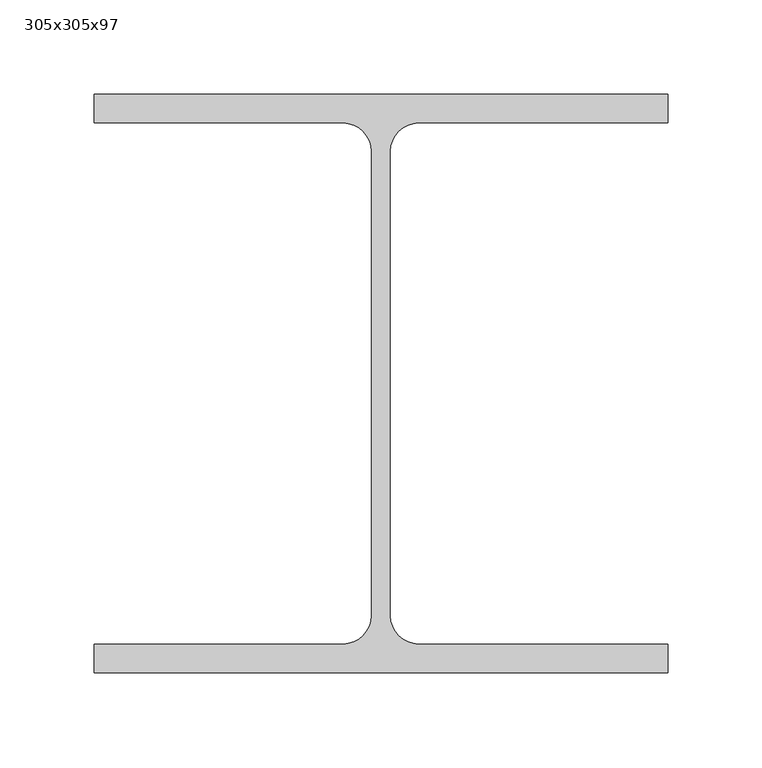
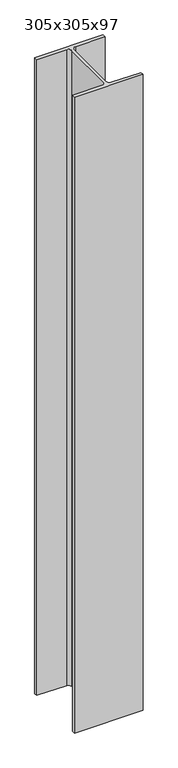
"""IFC4 building model written with IfcOpenShell, lengths in millimetres: column geometry, Ocel.sloup I : 305x305x97."""

from ifc_helpers import new_model, si_unit, point, frame_2d, origin, origin_with_axes, place, context, project, spatial, polyline, circle_curve, trimmed, segment, composite_curve, outline, extrude, source, transform, mapped, element, save


def column_305x305x97_616d0abd(model_context):
    return source(origin(), model_context, "Body", "SweptSolid", [
        extrude(outline(composite_curve([segment(polyline([(152.65, 153.95), (152.65, 138.55), (20.15, 138.55)]), True, "CONTINUOUS"), segment(trimmed(circle_curve(frame_2d((20.15, 123.35)), 15.2), [point((20.15, 138.55))], [point((4.95, 123.35))], True, "CARTESIAN"), True, "CONTINUOUS"), segment(polyline([(4.95, 123.35), (4.95, -123.35)]), True, "CONTINUOUS"), segment(trimmed(circle_curve(frame_2d((20.15, -123.35)), 15.2), [point((4.95, -123.35))], [point((20.15, -138.55))], True, "CARTESIAN"), True, "CONTINUOUS"), segment(polyline([(20.15, -138.55), (152.65, -138.55), (152.65, -153.95), (-152.65, -153.95), (-152.65, -138.55), (-20.15, -138.55)]), True, "CONTINUOUS"), segment(trimmed(circle_curve(frame_2d((-20.15, -123.35)), 15.2), [point((-20.15, -138.55))], [point((-4.95, -123.35))], True, "CARTESIAN"), True, "CONTINUOUS"), segment(polyline([(-4.95, -123.35), (-4.95, 123.35)]), True, "CONTINUOUS"), segment(trimmed(circle_curve(frame_2d((-20.15, 123.35)), 15.2), [point((-4.95, 123.35))], [point((-20.15, 138.55))], True, "CARTESIAN"), True, "CONTINUOUS"), segment(polyline([(-20.15, 138.55), (-152.65, 138.55), (-152.65, 153.95), (152.65, 153.95)]), True, "CONTINUOUS")], self_intersect=False)), origin_with_axes(), (0.0, 0.0, 1.0), 3000.0),
    ])


if __name__ == "__main__":
    model = new_model("IFC4")
    model_context = context("Model", 3, world=origin())
    ifc_project = project(units=[si_unit("LENGTHUNIT", "METRE", prefix="MILLI")], contexts=[model_context])
    site = spatial("IfcSite", under=ifc_project)
    building = spatial("IfcBuilding", under=site)
    placement = place(None, origin())
    column_305x305x97_shape = column_305x305x97_616d0abd(model_context)
    element("IfcColumn", 1, ObjectType="Ocel.sloup I : 305x305x97", at=placement, inside=building, context=model_context, shape_type="MappedRepresentation", body=[
        mapped(column_305x305x97_shape, transform((0.0, 0.0, 0.0), x_axis=(1.0, 0.0, 0.0), y_axis=(0.0, 1.0, 0.0), z_axis=(0.0, 0.0, 1.0))),
    ])
    save(model, "model.ifc")
